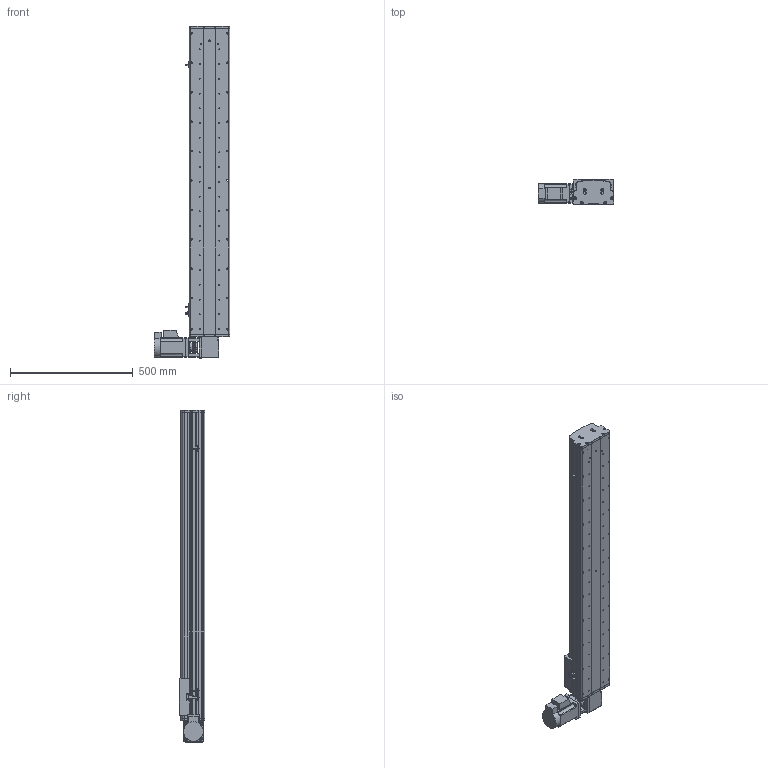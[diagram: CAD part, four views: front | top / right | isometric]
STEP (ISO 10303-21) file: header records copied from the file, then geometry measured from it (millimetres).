
FILE_DESCRIPTION (( 'STEP AP214' ), '1' );
FILE_NAME ('KSD165B-S1000-MRT-CM.STEP', '2017-10-17T01:32:25', ( '微软用户' ), ( '微软中国' ), 'SwSTEP 2.0', 'SolidWorks 2014', '' );
FILE_SCHEMA (( 'AUTOMOTIVE_DESIGN' ));
Length unit declared in the file: millimetre
Products named in the file (16): KSD165耀郪-ヶ傷啣1-肮祭湍; KSD165模组-后端板1-同步带; KSD165模组-同步带滑动座-最新版; KSD165B-S1000-MRT-CM; C39ㄜ1419WP; 拸秶雄ん750W侜督萇儂; 130宽马达安装板1-带电机座750W（1）; KSD165模组同步带底板-1000行程; KSD165模组-同步带防尘盖1-1000行程; 165宽安装板同步带带电机座750W; 165宽马达安装板同步带左-改; U倰嫖萇假蚾璃; U倰嫖萇EEㄜSX672; 覜茼え68遵圉猾敕; KSD165模组-同步带-防撞垫2; KSD165模组同步带-防撞垫1
Assembly tree (19 placements, depth 2):
  KSD165B-S1000-MRT-CM
    KSD165模组-同步带滑动座-最新版
    KSD165模组-后端板1-同步带
    KSD165耀郪-ヶ傷啣1-肮祭湍
    KSD165模组同步带-防撞垫1
    KSD165模组-同步带-防撞垫2
    覜茼え68遵圉猾敕
    U倰嫖萇EEㄜSX672  x3
    U倰嫖萇假蚾璃  x3
    165宽马达安装板同步带左-改
    165宽安装板同步带带电机座750W
    KSD165模组-同步带防尘盖1-1000行程
    KSD165模组同步带底板-1000行程
    130宽马达安装板1-带电机座750W（1）
    拸秶雄ん750W侜督萇儂
    C39ㄜ1419WP
Bounding box: 307.5 x 104 x 1354 mm (x, y, z)
Volume: 7885035.3 mm3; surface area: 1782260.2 mm2
Topology: 20 solids, 21 shells, 1518 faces, 4224 edges, 2737 vertices
Faces by surface type: cylinder 841, plane 583, cone 94
Entity records: 48515 total; most frequent: CARTESIAN_POINT 10159, DIRECTION 7534, ORIENTED_EDGE 7100, EDGE_CURVE 3550, AXIS2_PLACEMENT_3D 2872, VERTEX_POINT 2329, VECTOR 1790, LINE 1790
